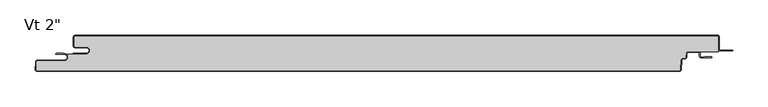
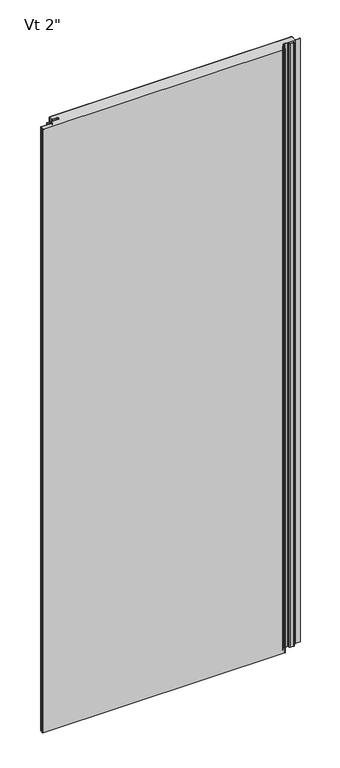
"""IFC4 building model written with IfcOpenShell, lengths in millimetres: plate geometry."""

from ifc_helpers import new_model, si_unit, point, frame, frame_2d, origin, origin_with_axes, place, context, project, spatial, polyline, circle_curve, ellipse_curve, trimmed, segment, composite_curve, outline, extrude, source, transform, mapped, element, save
from ifc_brep_helpers import plane_surface, cylinder_surface, revolved_surface, extruded_surface, advanced_brep


def plate_8043bdb3(model_context):
    return source(origin(), model_context, "Body", "SolidModel", [
        extrude(outline(composite_curve([segment(trimmed(circle_curve(frame_2d((411.8683456, -25.4)), 2.5875), [point((411.8683456, -22.8125))], [point((409.2843916, -25.2645807))], True, "CARTESIAN"), True, "CONTINUOUS"), segment(polyline([(409.2843916, -25.2645807), (408.9823154, -31.028539)]), True, "CONTINUOUS"), segment(trimmed(circle_curve(frame_2d((407.6029583, -30.95625)), 1.38125), [point((408.9823154, -31.028539))], [point((407.6029583, -32.3375))], False, "CARTESIAN"), True, "CONTINUOUS"), segment(polyline([(407.6029583, -32.3375), (404.5591519, -32.3375)]), True, "CONTINUOUS"), segment(trimmed(circle_curve(frame_2d((404.5591519, -34.925)), 2.5875), [point((404.5591519, -32.3375))], [point((401.975198, -34.7895807))], True, "CARTESIAN"), True, "CONTINUOUS"), segment(polyline([(401.975198, -34.7895807), (401.257135, -48.491039)]), True, "CONTINUOUS"), segment(trimmed(circle_curve(frame_2d((399.877778, -48.41875)), 1.38125), [point((401.257135, -48.491039))], [point((399.877778, -49.8))], False, "CARTESIAN"), True, "CONTINUOUS"), segment(polyline([(399.877778, -49.8), (-508.1656862, -49.8)]), True, "CONTINUOUS"), segment(trimmed(circle_curve(frame_2d((-508.1656862, -48.41875)), 1.38125), [point((-508.1656862, -49.8))], [point((-509.5450433, -48.346461))], False, "CARTESIAN"), True, "CONTINUOUS"), segment(polyline([(-509.5450433, -48.346461), (-508.9626618, -37.233961)]), True, "CONTINUOUS"), segment(trimmed(circle_curve(frame_2d((-507.5833048, -37.30625)), 1.38125), [point((-508.9626618, -37.233961))], [point((-507.5833048, -35.925))], False, "CARTESIAN"), True, "CONTINUOUS"), segment(polyline([(-507.5833048, -35.925), (-469.4000002, -35.925)]), True, "CONTINUOUS"), segment(trimmed(circle_curve(frame_2d((-469.4000002, -30.95625)), 4.96875), [point((-469.4000002, -35.925))], [point((-464.4312502, -30.95625))], True, "CARTESIAN"), True, "CONTINUOUS"), segment(polyline([(-464.4312502, -30.95625), (-464.4312502, -26.4), (-438.4437502, -26.4)]), True, "CONTINUOUS"), segment(trimmed(circle_curve(frame_2d((-438.4437502, -21.43125)), 4.96875), [point((-438.4437502, -26.4))], [point((-438.4437502, -16.4625))], True, "CARTESIAN"), True, "CONTINUOUS"), segment(polyline([(-438.4437502, -16.4625), (-454.3187502, -16.4625)]), True, "CONTINUOUS"), segment(trimmed(circle_curve(frame_2d((-454.3187502, -15.08125)), 1.38125), [point((-454.3187502, -16.4625))], [point((-455.7000002, -15.08125))], False, "CARTESIAN"), True, "CONTINUOUS"), segment(polyline([(-455.7000002, -15.08125), (-455.7000002, -2.38125)]), True, "CONTINUOUS"), segment(trimmed(circle_curve(frame_2d((-454.3187502, -2.38125)), 1.38125), [point((-455.7000002, -2.38125))], [point((-454.3187502, -1.0))], False, "CARTESIAN"), True, "CONTINUOUS"), segment(polyline([(-454.3187502, -1.0), (453.7312498, -1.0)]), True, "CONTINUOUS"), segment(trimmed(circle_curve(frame_2d((453.7312498, -2.38125)), 1.38125), [point((453.7312498, -1.0))], [point((455.1124998, -2.38125))], False, "CARTESIAN"), True, "CONTINUOUS"), segment(polyline([(455.1124998, -2.38125), (455.1124998, -22.8125), (411.8683456, -22.8125)]), True, "CONTINUOUS")], self_intersect=False)), origin_with_axes(), (0.0, 0.0, 1.0), 2400.0),
        extrude(outline(composite_curve([segment(polyline([(-456.7000002, -25.4), (-438.4437502, -25.4)]), True, "CONTINUOUS"), segment(trimmed(circle_curve(frame_2d((-438.4437502, -21.43125)), 3.96875), [point((-438.4437502, -25.4))], [point((-438.4437502, -17.4625))], True, "CARTESIAN"), True, "CONTINUOUS"), segment(polyline([(-438.4437502, -17.4625), (-454.3187502, -17.4625)]), True, "CONTINUOUS"), segment(trimmed(circle_curve(frame_2d((-454.3187502, -15.08125)), 2.38125), [point((-454.3187502, -17.4625))], [point((-456.7000002, -15.08125))], False, "CARTESIAN"), True, "CONTINUOUS"), segment(polyline([(-456.7000002, -15.08125), (-456.7000002, -2.38125)]), True, "CONTINUOUS"), segment(trimmed(circle_curve(frame_2d((-454.3187502, -2.38125)), 2.38125), [point((-456.7000002, -2.38125))], [point((-454.3187502, 0.0))], False, "CARTESIAN"), True, "CONTINUOUS"), segment(polyline([(-454.3187502, 0.0), (453.7312498, 0.0)]), True, "CONTINUOUS"), segment(trimmed(circle_curve(frame_2d((453.7312498, -2.38125)), 2.38125), [point((453.7312498, 0.0))], [point((456.1124998, -2.38125))], False, "CARTESIAN"), True, "CONTINUOUS"), segment(polyline([(456.1124998, -2.38125), (456.1124998, -19.446875)]), True, "CONTINUOUS"), segment(trimmed(circle_curve(frame_2d((457.6999998, -19.446875)), 1.5875), [point((456.1124998, -19.446875))], [point((457.6999998, -21.034375))], True, "CARTESIAN"), True, "CONTINUOUS"), segment(polyline([(457.6999998, -21.034375), (475.1624998, -21.034375), (475.1624998, -22.034375), (457.6999998, -22.034375)]), True, "CONTINUOUS"), segment(trimmed(circle_curve(frame_2d((457.6999998, -19.446875)), 2.5875), [point((457.6999998, -22.034375))], [point((455.1124998, -19.446875))], False, "CARTESIAN"), True, "CONTINUOUS"), segment(polyline([(455.1124998, -19.446875), (455.1124998, -2.38125)]), True, "CONTINUOUS"), segment(trimmed(circle_curve(frame_2d((453.7312498, -2.38125)), 1.38125), [point((455.1124998, -2.38125))], [point((453.7312498, -1.0))], True, "CARTESIAN"), True, "CONTINUOUS"), segment(polyline([(453.7312498, -1.0), (-454.3187502, -1.0)]), True, "CONTINUOUS"), segment(trimmed(circle_curve(frame_2d((-454.3187502, -2.38125)), 1.38125), [point((-454.3187502, -1.0))], [point((-455.7000002, -2.38125))], True, "CARTESIAN"), True, "CONTINUOUS"), segment(polyline([(-455.7000002, -2.38125), (-455.7000002, -15.08125)]), True, "CONTINUOUS"), segment(trimmed(circle_curve(frame_2d((-454.3187502, -15.08125)), 1.38125), [point((-455.7000002, -15.08125))], [point((-454.3187502, -16.4625))], True, "CARTESIAN"), True, "CONTINUOUS"), segment(polyline([(-454.3187502, -16.4625), (-438.4437502, -16.4625)]), True, "CONTINUOUS"), segment(trimmed(circle_curve(frame_2d((-438.4437502, -21.43125)), 4.96875), [point((-438.4437502, -16.4625))], [point((-438.4437502, -26.4))], False, "CARTESIAN"), True, "CONTINUOUS"), segment(polyline([(-438.4437502, -26.4), (-456.7000002, -26.4), (-456.7000002, -25.4)]), True, "CONTINUOUS")], self_intersect=False)), origin_with_axes(), (0.0, 0.0, 1.0), 2400.0),
        advanced_brep(
        [(-480.7252051, -25.4, 2400.0), (-480.7252051, -26.9875, 2400.0), (-469.4142676, -26.9875, 2400.0), (-469.4142676, -34.925, 2400.0), (-507.5975722, -34.925, 2400.0), (-509.9755588, -37.181625, 2400.0), (-510.5579402, -48.294125, 2400.0), (-508.1799537, -50.8, 2400.0), (399.8635105, -50.8, 2400.0), (402.2414971, -48.543375, 2400.0), (402.9595601, -34.8419167, 2400.0), (404.5448845, -33.3375, 2400.0), (407.5886909, -33.3375, 2400.0), (409.9666775, -31.080875, 2400.0), (410.2687537, -25.3169167, 2400.0), (411.8540781, -23.8125, 2400.0), (426.7294824, -23.8125, 2400.0), (428.3169824, -25.4, 2400.0), (428.3169824, -29.5671875, 2400.0), (430.6982324, -31.9484375, 2400.0), (445.189853, -31.9484375, 2400.0), (445.189853, -30.1546875, 2400.0), (435.4607324, -30.1546875, 2400.0), (435.4607324, -30.9484375, 2400.0), (430.6982324, -30.9484375, 2400.0), (429.3169824, -29.5671875, 2400.0), (429.3169824, -25.4, 2400.0), (426.7294824, -22.8125, 2400.0), (411.8540781, -22.8125, 2400.0), (409.2701242, -25.2645807, 2400.0), (408.9680479, -31.028539, 2400.0), (407.5886909, -32.3375, 2400.0), (404.5448845, -32.3375, 2400.0), (401.9609306, -34.7895807, 2400.0), (401.2428676, -48.491039, 2400.0), (399.8635105, -49.8, 2400.0), (-508.1799537, -49.8, 2400.0), (-509.5593107, -48.346461, 2400.0), (-508.9769293, -37.233961, 2400.0), (-507.5975722, -35.925, 2400.0), (-469.4142676, -35.925, 2400.0), (-469.4142676, -25.9875, 2400.0), (-471.0017676, -26.19375, 2400.0), (-471.0017676, -25.4, 2400.0), (-480.7252051, -25.4, 0.0), (-471.0017676, -25.4, 0.0), (-471.0017676, -26.19375, 0.0), (-469.4142676, -25.9875, 0.0), (-469.4142676, -35.925, 0.0), (-507.5975722, -35.925, 0.0), (-508.9769293, -37.233961, 0.0), (-509.5593107, -48.346461, 0.0), (-508.1799537, -49.8, 0.0), (399.8635105, -49.8, 0.0), (401.2428676, -48.491039, 0.0), (401.9609306, -34.7895807, 0.0), (404.5448845, -32.3375, 0.0), (407.5886909, -32.3375, 0.0), (408.9680479, -31.028539, 0.0), (409.2701242, -25.2645807, 0.0), (411.8540781, -22.8125, 0.0), (426.7294824, -22.8125, 0.0), (429.3169824, -25.4, 0.0), (429.3169824, -29.5671875, 0.0), (430.6982324, -30.9484375, 0.0), (435.4607324, -30.9484375, 0.0), (435.4607324, -30.1546875, 0.0), (445.189853, -30.1546875, 0.0), (445.189853, -31.9484375, 0.0), (430.6982324, -31.9484375, 0.0), (428.3169824, -29.5671875, 0.0), (428.3169824, -25.4, 0.0), (426.7294824, -23.8125, 0.0), (411.8540781, -23.8125, 0.0), (410.2687537, -25.3169167, 0.0), (409.9666775, -31.080875, 0.0), (407.5886909, -33.3375, 0.0), (404.5448845, -33.3375, 0.0), (402.9595601, -34.8419167, 0.0), (402.2414971, -48.543375, 0.0), (399.8635105, -50.8, 0.0), (-508.1799537, -50.8, 0.0), (-510.5579402, -48.294125, 0.0), (-509.9755588, -37.181625, 0.0), (-507.5975722, -34.925, 0.0), (-469.4142676, -34.925, 0.0), (-469.4142676, -26.9875, 0.0), (-480.7252051, -26.9875, 0.0)],
        [
            (0, 1, circle_curve(frame((-480.7252051, -26.19375, 2400.0), z_axis=(0.0, 0.0, 1.0), x_axis=(1.0, 0.0, 0.0)), 0.79375)),
            (1, 2),
            (2, 3, circle_curve(frame((-469.4142676, -30.95625, 2400.0), z_axis=(0.0, 0.0, -1.0), x_axis=(1.0, 0.0, 0.0)), 3.96875)),
            (3, 4),
            (4, 5, circle_curve(frame((-507.5975722, -37.30625, 2400.0), z_axis=(0.0, 0.0, 1.0), x_axis=(1.0, 0.0, 0.0)), 2.38125)),
            (5, 6),
            (6, 7, circle_curve(frame((-508.1799537, -48.41875, 2400.0), z_axis=(0.0, 0.0, 1.0), x_axis=(1.0, 0.0, 0.0)), 2.38125)),
            (7, 8),
            (8, 9, circle_curve(frame((399.8635105, -48.41875, 2400.0), z_axis=(0.0, 0.0, 1.0), x_axis=(1.0, 0.0, 0.0)), 2.38125)),
            (9, 10),
            (10, 11, circle_curve(frame((404.5448845, -34.925, 2400.0), z_axis=(0.0, 0.0, -1.0), x_axis=(1.0, 0.0, 0.0)), 1.5875)),
            (11, 12),
            (12, 13, circle_curve(frame((407.5886909, -30.95625, 2400.0), z_axis=(0.0, 0.0, 1.0), x_axis=(1.0, 0.0, 0.0)), 2.38125)),
            (13, 14),
            (14, 15, circle_curve(frame((411.8540781, -25.4, 2400.0), z_axis=(0.0, 0.0, -1.0), x_axis=(1.0, 0.0, 0.0)), 1.5875)),
            (15, 16),
            (16, 17, circle_curve(frame((426.7294824, -25.4, 2400.0), z_axis=(0.0, 0.0, -1.0), x_axis=(1.0, 0.0, 0.0)), 1.5875)),
            (17, 18),
            (18, 19, circle_curve(frame((430.6982324, -29.5671875, 2400.0), z_axis=(0.0, 0.0, 1.0), x_axis=(1.0, 0.0, 0.0)), 2.38125)),
            (19, 20),
            (20, 21, ellipse_curve(frame((445.189853, -31.0515625, 2400.0), z_axis=(0.0, 0.0, 1.0), x_axis=(0.0, 1.0, 0.0)), 0.896875, 0.7852275)),
            (21, 22),
            (22, 23),
            (23, 24),
            (24, 25, circle_curve(frame((430.6982324, -29.5671875, 2400.0), z_axis=(0.0, 0.0, -1.0), x_axis=(1.0, 0.0, 0.0)), 1.38125)),
            (25, 26),
            (26, 27, circle_curve(frame((426.7294824, -25.4, 2400.0), z_axis=(0.0, 0.0, 1.0), x_axis=(1.0, 0.0, 0.0)), 2.5875)),
            (27, 28),
            (28, 29, circle_curve(frame((411.8540781, -25.4, 2400.0), z_axis=(0.0, 0.0, 1.0), x_axis=(1.0, 0.0, 0.0)), 2.5875)),
            (29, 30),
            (30, 31, circle_curve(frame((407.5886909, -30.95625, 2400.0), z_axis=(0.0, 0.0, -1.0), x_axis=(1.0, 0.0, 0.0)), 1.38125)),
            (31, 32),
            (32, 33, circle_curve(frame((404.5448845, -34.925, 2400.0), z_axis=(0.0, 0.0, 1.0), x_axis=(1.0, 0.0, 0.0)), 2.5875)),
            (33, 34),
            (34, 35, circle_curve(frame((399.8635105, -48.41875, 2400.0), z_axis=(0.0, 0.0, -1.0), x_axis=(1.0, 0.0, 0.0)), 1.38125)),
            (35, 36),
            (36, 37, circle_curve(frame((-508.1799537, -48.41875, 2400.0), z_axis=(0.0, 0.0, -1.0), x_axis=(1.0, 0.0, 0.0)), 1.38125)),
            (37, 38),
            (38, 39, circle_curve(frame((-507.5975722, -37.30625, 2400.0), z_axis=(0.0, 0.0, -1.0), x_axis=(1.0, 0.0, 0.0)), 1.38125)),
            (39, 40),
            (40, 41, circle_curve(frame((-469.4142676, -30.95625, 2400.0), z_axis=(0.0, 0.0, 1.0), x_axis=(1.0, 0.0, 0.0)), 4.96875)),
            (41, 42),
            (42, 43),
            (43, 0),
            (44, 45),
            (45, 46),
            (46, 47),
            (47, 48, circle_curve(frame((-469.4142676, -30.95625, 0.0), z_axis=(0.0, 0.0, -1.0), x_axis=(1.0, 0.0, 0.0)), 4.96875)),
            (48, 49),
            (49, 50, circle_curve(frame((-507.5975722, -37.30625, 0.0), z_axis=(0.0, 0.0, 1.0), x_axis=(1.0, 0.0, 0.0)), 1.38125)),
            (50, 51),
            (51, 52, circle_curve(frame((-508.1799537, -48.41875, 0.0), z_axis=(0.0, 0.0, 1.0), x_axis=(1.0, 0.0, 0.0)), 1.38125)),
            (52, 53),
            (53, 54, circle_curve(frame((399.8635105, -48.41875, 0.0), z_axis=(0.0, 0.0, 1.0), x_axis=(1.0, 0.0, 0.0)), 1.38125)),
            (54, 55),
            (55, 56, circle_curve(frame((404.5448845, -34.925, 0.0), z_axis=(0.0, 0.0, -1.0), x_axis=(1.0, 0.0, 0.0)), 2.5875)),
            (56, 57),
            (57, 58, circle_curve(frame((407.5886909, -30.95625, 0.0), z_axis=(0.0, 0.0, 1.0), x_axis=(1.0, 0.0, 0.0)), 1.38125)),
            (58, 59),
            (59, 60, circle_curve(frame((411.8540781, -25.4, 0.0), z_axis=(0.0, 0.0, -1.0), x_axis=(1.0, 0.0, 0.0)), 2.5875)),
            (60, 61),
            (61, 62, circle_curve(frame((426.7294824, -25.4, 0.0), z_axis=(0.0, 0.0, -1.0), x_axis=(1.0, 0.0, 0.0)), 2.5875)),
            (62, 63),
            (63, 64, circle_curve(frame((430.6982324, -29.5671875, 0.0), z_axis=(0.0, 0.0, 1.0), x_axis=(1.0, 0.0, 0.0)), 1.38125)),
            (64, 65),
            (65, 66),
            (66, 67),
            (67, 68, ellipse_curve(frame((445.189853, -31.0515625, 0.0), z_axis=(0.0, 0.0, -1.0), x_axis=(0.0, 1.0, 0.0)), 0.896875, 0.7852275)),
            (68, 69),
            (69, 70, circle_curve(frame((430.6982324, -29.5671875, 0.0), z_axis=(0.0, 0.0, -1.0), x_axis=(1.0, 0.0, 0.0)), 2.38125)),
            (70, 71),
            (71, 72, circle_curve(frame((426.7294824, -25.4, 0.0), z_axis=(0.0, 0.0, 1.0), x_axis=(1.0, 0.0, 0.0)), 1.5875)),
            (72, 73),
            (73, 74, circle_curve(frame((411.8540781, -25.4, 0.0), z_axis=(0.0, 0.0, 1.0), x_axis=(1.0, 0.0, 0.0)), 1.5875)),
            (74, 75),
            (75, 76, circle_curve(frame((407.5886909, -30.95625, 0.0), z_axis=(0.0, 0.0, -1.0), x_axis=(1.0, 0.0, 0.0)), 2.38125)),
            (76, 77),
            (77, 78, circle_curve(frame((404.5448845, -34.925, 0.0), z_axis=(0.0, 0.0, 1.0), x_axis=(1.0, 0.0, 0.0)), 1.5875)),
            (78, 79),
            (79, 80, circle_curve(frame((399.8635105, -48.41875, 0.0), z_axis=(0.0, 0.0, -1.0), x_axis=(1.0, 0.0, 0.0)), 2.38125)),
            (80, 81),
            (81, 82, circle_curve(frame((-508.1799537, -48.41875, 0.0), z_axis=(0.0, 0.0, -1.0), x_axis=(1.0, 0.0, 0.0)), 2.38125)),
            (82, 83),
            (83, 84, circle_curve(frame((-507.5975722, -37.30625, 0.0), z_axis=(0.0, 0.0, -1.0), x_axis=(1.0, 0.0, 0.0)), 2.38125)),
            (84, 85),
            (85, 86, circle_curve(frame((-469.4142676, -30.95625, 0.0), z_axis=(0.0, 0.0, 1.0), x_axis=(1.0, 0.0, 0.0)), 3.96875)),
            (86, 87),
            (87, 44, circle_curve(frame((-480.7252051, -26.19375, 0.0), z_axis=(0.0, 0.0, -1.0), x_axis=(1.0, 0.0, 0.0)), 0.79375)),
            (20, 68),
            (67, 21),
            (66, 22),
            (65, 23),
            (41, 47),
            (46, 42),
            (45, 43),
            (40, 48),
            (39, 49),
            (38, 50),
            (37, 51),
            (33, 55),
            (54, 34),
            (32, 56),
            (31, 57),
            (30, 58),
            (29, 59),
            (28, 60),
            (64, 24),
            (63, 25),
            (62, 26),
            (61, 27),
            (18, 70),
            (69, 19),
            (17, 71),
            (16, 72),
            (15, 73),
            (14, 74),
            (13, 75),
            (12, 76),
            (11, 77),
            (10, 78),
            (9, 79),
            (5, 83),
            (82, 6),
            (4, 84),
            (3, 85),
            (2, 86),
            (1, 87),
            (0, 44),
            (36, 52),
            (35, 53),
            (8, 80),
            (7, 81),
        ],
        [
            plane_surface(frame((-0.2937502, -50.8, 2400.0), z_axis=(0.0, 0.0, 1.0), x_axis=(0.0, -1.0, 0.0))),
            plane_surface(frame((-0.2937502, -50.8, 0.0), z_axis=(0.0, 0.0, -1.0), x_axis=(0.0, -1.0, 0.0))),
            extruded_surface(trimmed(ellipse_curve(frame((445.189853, -31.0515625, 2400.0), z_axis=(0.0, 0.0, -1.0), x_axis=(0.0, 1.0, 0.0)), 0.896875, 0.7852275), [point((445.189853, -30.1546875, 2400.0))], [point((445.189853, -31.9484375, 2400.0))], True, "CARTESIAN"), (0.0, 0.0, -2400.0), 2400.0),
            plane_surface(frame((435.4607324, -30.1546875, 2400.0), z_axis=(0.0, 1.0, 0.0), x_axis=(0.0, 0.0, -1.0))),
            plane_surface(frame((435.4607324, -30.9484375, 2400.0), z_axis=(-1.0, 0.0, 0.0), x_axis=(0.0, 0.0, -1.0))),
            plane_surface(frame((-471.0017676, -26.19375, 2400.0), z_axis=(-0.12883844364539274, 0.9916655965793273, 0.0), x_axis=(0.0, 0.0, -1.0))),
            plane_surface(frame((-471.0017676, -25.4, 2400.0), z_axis=(1.0, 0.0, 0.0), x_axis=(0.0, 0.0, -1.0))),
            cylinder_surface(frame((-469.4142676, -30.95625, 2400.0), z_axis=(0.0, 0.0, 1.0), x_axis=(1.0, 0.0, 0.0)), 4.96875),
            plane_surface(frame((-469.4142676, -35.925, 2400.0), z_axis=(0.0, -1.0, 0.0), x_axis=(0.0, 0.0, -1.0))),
            revolved_surface(polyline([(-506.2163222, -37.30625, 0.0), (-506.2163222, -37.30625, 2400.0)]), (-507.5975722, -37.30625, 2400.0), (0.0, 0.0, -1.0)),
            plane_surface(frame((-508.9769293, -37.233961, 2400.0), z_axis=(0.9986295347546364, -0.05233595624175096, 0.0), x_axis=(0.0, 0.0, -1.0))),
            plane_surface(frame((401.2428676, -48.491039, 2400.0), z_axis=(-0.9986295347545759, 0.05233595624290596, 0.0), x_axis=(0.0, 0.0, -1.0))),
            cylinder_surface(frame((404.5448845, -34.925, 2400.0), z_axis=(0.0, 0.0, 1.0), x_axis=(1.0, 0.0, 0.0)), 2.5875),
            plane_surface(frame((404.5448845, -32.3375, 2400.0), z_axis=(0.0, 1.0, 0.0), x_axis=(0.0, 0.0, -1.0))),
            revolved_surface(polyline([(408.96994090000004, -30.95625, 0.0), (408.96994090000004, -30.95625, 2400.0)]), (407.5886909, -30.95625, 2400.0), (0.0, 0.0, -1.0)),
            plane_surface(frame((408.9680479, -31.028539, 2400.0), z_axis=(-0.998629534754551, 0.05233595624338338, 0.0), x_axis=(0.0, 0.0, -1.0))),
            cylinder_surface(frame((411.8540781, -25.4, 2400.0), z_axis=(0.0, 0.0, 1.0), x_axis=(1.0, 0.0, 0.0)), 2.5875),
            plane_surface(frame((430.6982324, -30.9484375, 2400.0), z_axis=(0.0, 1.0, 0.0), x_axis=(0.0, 0.0, -1.0))),
            revolved_surface(polyline([(432.0794824, -29.5671875, 0.0), (432.0794824, -29.5671875, 2400.0)]), (430.6982324, -29.5671875, 2400.0), (0.0, 0.0, -1.0)),
            plane_surface(frame((429.3169824, -25.4, 2400.0), z_axis=(1.0, 0.0, 0.0), x_axis=(0.0, 0.0, -1.0))),
            cylinder_surface(frame((426.7294824, -25.4, 2400.0), z_axis=(0.0, 0.0, 1.0), x_axis=(1.0, 0.0, 0.0)), 2.5875),
            plane_surface(frame((411.8540781, -22.8125, 2400.0), z_axis=(0.0, 1.0, 0.0), x_axis=(0.0, 0.0, -1.0))),
            cylinder_surface(frame((430.6982324, -29.5671875, 2400.0), z_axis=(0.0, 0.0, 1.0), x_axis=(1.0, 0.0, 0.0)), 2.38125),
            plane_surface(frame((428.3169824, -29.5671875, 2400.0), z_axis=(-1.0, 0.0, 0.0), x_axis=(0.0, 0.0, -1.0))),
            revolved_surface(polyline([(428.3169824, -25.4, 0.0), (428.3169824, -25.4, 2400.0)]), (426.7294824, -25.4, 2400.0), (0.0, 0.0, -1.0)),
            plane_surface(frame((426.7294824, -23.8125, 2400.0), z_axis=(0.0, -1.0, 0.0), x_axis=(0.0, 0.0, -1.0))),
            revolved_surface(polyline([(413.44157809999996, -25.4, 0.0), (413.44157809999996, -25.4, 2400.0)]), (411.8540781, -25.4, 2400.0), (0.0, 0.0, -1.0)),
            plane_surface(frame((410.2687537, -25.3169167, 2400.0), z_axis=(0.9986295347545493, -0.05233595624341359, 0.0), x_axis=(0.0, 0.0, -1.0))),
            cylinder_surface(frame((407.5886909, -30.95625, 2400.0), z_axis=(0.0, 0.0, 1.0), x_axis=(1.0, 0.0, 0.0)), 2.38125),
            plane_surface(frame((407.5886909, -33.3375, 2400.0), z_axis=(0.0, -1.0, 0.0), x_axis=(0.0, 0.0, -1.0))),
            revolved_surface(polyline([(406.1323845, -34.925, 0.0), (406.1323845, -34.925, 2400.0)]), (404.5448845, -34.925, 2400.0), (0.0, 0.0, -1.0)),
            plane_surface(frame((402.9595601, -34.8419167, 2400.0), z_axis=(0.9986295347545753, -0.052335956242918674, 0.0), x_axis=(0.0, 0.0, -1.0))),
            plane_surface(frame((-510.5579402, -48.294125, 2400.0), z_axis=(-0.9986295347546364, 0.05233595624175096, 0.0), x_axis=(0.0, 0.0, -1.0))),
            cylinder_surface(frame((-507.5975722, -37.30625, 2400.0), z_axis=(0.0, 0.0, 1.0), x_axis=(1.0, 0.0, 0.0)), 2.38125),
            plane_surface(frame((-507.5975722, -34.925, 2400.0), z_axis=(0.0, 1.0, 0.0), x_axis=(0.0, 0.0, -1.0))),
            revolved_surface(polyline([(-465.4455176, -30.95625, 0.0), (-465.4455176, -30.95625, 2400.0)]), (-469.4142676, -30.95625, 2400.0), (0.0, 0.0, -1.0)),
            plane_surface(frame((-469.4142676, -26.9875, 2400.0), z_axis=(0.0, -1.0, 0.0), x_axis=(0.0, 0.0, -1.0))),
            cylinder_surface(frame((-480.7252051, -26.19375, 2400.0), z_axis=(0.0, 0.0, 1.0), x_axis=(1.0, 0.0, 0.0)), 0.79375),
            plane_surface(frame((-480.7252051, -25.4, 2400.0), z_axis=(0.0, 1.0, 0.0), x_axis=(0.0, 0.0, -1.0))),
            revolved_surface(polyline([(-506.7987037, -48.41875, 0.0), (-506.7987037, -48.41875, 2400.0)]), (-508.1799537, -48.41875, 2400.0), (0.0, 0.0, -1.0)),
            plane_surface(frame((-508.1799537, -49.8, 2400.0), z_axis=(0.0, 1.0, 0.0), x_axis=(0.0, 0.0, -1.0))),
            revolved_surface(polyline([(401.24476050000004, -48.41875, 0.0), (401.24476050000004, -48.41875, 2400.0)]), (399.8635105, -48.41875, 2400.0), (0.0, 0.0, -1.0)),
            plane_surface(frame((445.189853, -31.9484375, 2400.0), z_axis=(0.0, -1.0, 0.0), x_axis=(0.0, 0.0, -1.0))),
            cylinder_surface(frame((399.8635105, -48.41875, 2400.0), z_axis=(0.0, 0.0, 1.0), x_axis=(1.0, 0.0, 0.0)), 2.38125),
            plane_surface(frame((399.8635105, -50.8, 2400.0), z_axis=(0.0, -1.0, 0.0), x_axis=(0.0, 0.0, -1.0))),
            cylinder_surface(frame((-508.1799537, -48.41875, 2400.0), z_axis=(0.0, 0.0, 1.0), x_axis=(1.0, 0.0, 0.0)), 2.38125),
        ],
        [
            (0, [[1, 2, 3, 4, 5, 6, 7, 8, 9, 10, 11, 12, 13, 14, 15, 16, 17, 18, 19, 20, 21, 22, 23, 24, 25, 26, 27, 28, 29, 30, 31, 32, 33, 34, 35, 36, 37, 38, 39, 40, 41, 42, 43, 44]]),
            (1, [[45, 46, 47, 48, 49, 50, 51, 52, 53, 54, 55, 56, 57, 58, 59, 60, 61, 62, 63, 64, 65, 66, 67, 68, 69, 70, 71, 72, 73, 74, 75, 76, 77, 78, 79, 80, 81, 82, 83, 84, 85, 86, 87, 88]]),
            (2, [[89, -68, 90, -21]]),
            (3, [[-90, -67, 91, -22]]),
            (4, [[-91, -66, 92, -23]]),
            (5, [[93, -47, 94, -42]]),
            (6, [[-94, -46, 95, -43]]),
            (7, [[96, -48, -93, -41]]),
            (8, [[97, -49, -96, -40]]),
            (9, [[98, -50, -97, -39]]),
            (10, [[99, -51, -98, -38]]),
            (11, [[100, -55, 101, -34]]),
            (12, [[102, -56, -100, -33]]),
            (13, [[103, -57, -102, -32]]),
            (14, [[104, -58, -103, -31]]),
            (15, [[105, -59, -104, -30]]),
            (16, [[106, -60, -105, -29]]),
            (17, [[-92, -65, 107, -24]]),
            (18, [[-107, -64, 108, -25]]),
            (19, [[-108, -63, 109, -26]]),
            (20, [[-109, -62, 110, -27]]),
            (21, [[-110, -61, -106, -28]]),
            (22, [[111, -70, 112, -19]]),
            (23, [[113, -71, -111, -18]]),
            (24, [[114, -72, -113, -17]]),
            (25, [[115, -73, -114, -16]]),
            (26, [[116, -74, -115, -15]]),
            (27, [[117, -75, -116, -14]]),
            (28, [[118, -76, -117, -13]]),
            (29, [[119, -77, -118, -12]]),
            (30, [[120, -78, -119, -11]]),
            (31, [[121, -79, -120, -10]]),
            (32, [[122, -83, 123, -6]]),
            (33, [[124, -84, -122, -5]]),
            (34, [[125, -85, -124, -4]]),
            (35, [[126, -86, -125, -3]]),
            (36, [[127, -87, -126, -2]]),
            (37, [[128, -88, -127, -1]]),
            (38, [[-95, -45, -128, -44]]),
            (39, [[129, -52, -99, -37]]),
            (40, [[130, -53, -129, -36]]),
            (41, [[-101, -54, -130, -35]]),
            (42, [[-112, -69, -89, -20]]),
            (43, [[131, -80, -121, -9]]),
            (44, [[132, -81, -131, -8]]),
            (45, [[-123, -82, -132, -7]]),
        ],
    ),
    ])


if __name__ == "__main__":
    model = new_model("IFC4")
    model_context = context("Model", 3, world=origin())
    ifc_project = project(units=[si_unit("LENGTHUNIT", "METRE", prefix="MILLI")], contexts=[model_context])
    site = spatial("IfcSite", under=ifc_project)
    building = spatial("IfcBuilding", under=site)
    placement = place(None, origin())
    plate_shape = plate_8043bdb3(model_context)
    element("IfcPlate", 1, ObjectType="KIP-36-DWTR-R19-CP-Vt-F : Vt 2\"", at=placement, inside=building, context=model_context, shape_type="MappedRepresentation", body=[
        mapped(plate_shape, transform((0.0, 0.0, 0.0), x_axis=(1.0, 0.0, 0.0), y_axis=(0.0, 1.0, 0.0), z_axis=(0.0, 0.0, 1.0))),
    ])
    save(model, "model.ifc")
